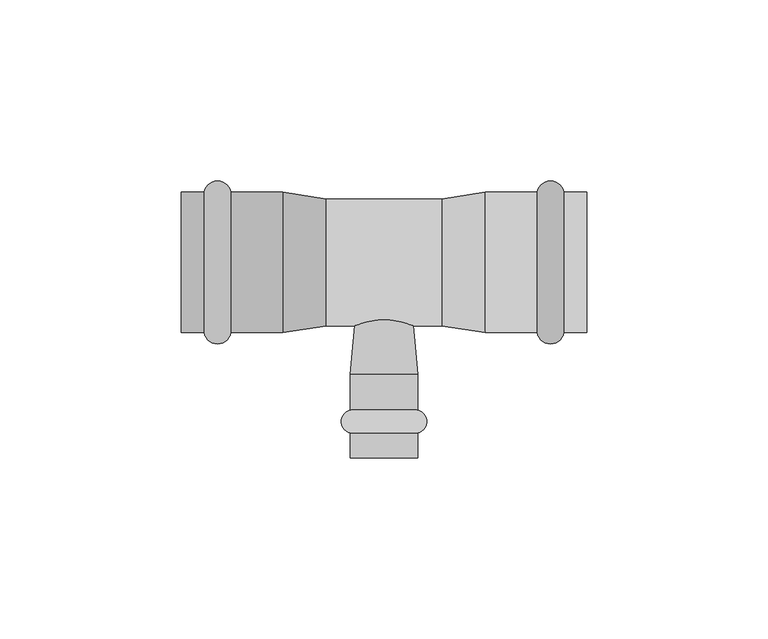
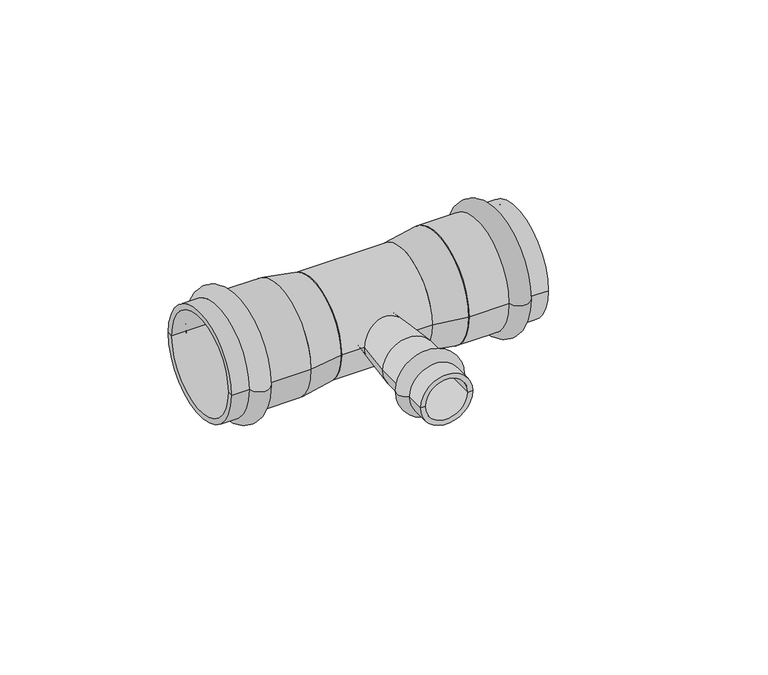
"""IFC4 building model written with IfcOpenShell, lengths in millimetres: pipe fitting geometry, VALTEC_VTi.931.I_Тройник_Ннержавеющая сталь : VTi.931.I."""

from ifc_helpers import new_model, si_unit, point, frame, origin, origin_2d, place, context, project, spatial, polyline, circle_curve, ellipse_curve, trimmed, segment, composite_curve, outline, extrude, source, transform, mapped, element, save
from ifc_brep_helpers import plane_surface, cylinder_surface, revolved_surface, advanced_brep


def pipe_fitting_ff04a165(model_context):
    return source(origin(), model_context, "Body", "SolidModel", [
        advanced_brep(
        [(9.25, -47.1122777, 0.0), (-9.25, -47.1122777, 0.0), (-9.25, -40.7877223, 0.0), (9.25, -40.7877223, 0.0), (9.25, -54.0, 0.0), (-9.25, -54.0, 0.0), (7.5, -54.0, 0.0), (-7.5, -54.0, 0.0), (7.5, -31.0, 0.0), (-7.5, -31.0, 0.0), (9.25, -31.0, 0.0), (-9.25, -31.0, 0.0)],
        [
            (0, 1, circle_curve(frame((0.0, -47.1122777, 0.0), z_axis=(0.0, 1.0, 0.0), x_axis=(-1.0, 0.0, 0.0)), 9.25)),
            (1, 2, circle_curve(frame((-8.5, -43.95, 0.0), z_axis=(0.0, 0.0, -1.0), x_axis=(0.0, 1.0, 0.0)), 3.25)),
            (2, 3, circle_curve(frame((0.0, -40.7877223, 0.0), z_axis=(0.0, -1.0, 0.0), x_axis=(-1.0, 0.0, 0.0)), 9.25)),
            (3, 0, circle_curve(frame((8.5, -43.95, 0.0), z_axis=(0.0, 0.0, -1.0), x_axis=(0.0, 1.0, 0.0)), 3.25)),
            (1, 0, circle_curve(frame((0.0, -47.1122777, 0.0), z_axis=(0.0, 1.0, 0.0), x_axis=(-1.0, 0.0, 0.0)), 9.25)),
            (3, 2, circle_curve(frame((0.0, -40.7877223, 0.0), z_axis=(0.0, -1.0, 0.0), x_axis=(-1.0, 0.0, 0.0)), 9.25)),
            (4, 5, circle_curve(frame((0.0, -54.0, 0.0), z_axis=(0.0, 1.0, 0.0), x_axis=(-1.0, 0.0, 0.0)), 9.25)),
            (5, 1),
            (0, 4),
            (5, 4, circle_curve(frame((0.0, -54.0, 0.0), z_axis=(0.0, 1.0, 0.0), x_axis=(-1.0, 0.0, 0.0)), 9.25)),
            (6, 7, circle_curve(frame((0.0, -54.0, 0.0), z_axis=(0.0, 1.0, 0.0), x_axis=(-1.0, 0.0, 0.0)), 7.5)),
            (7, 5),
            (4, 6),
            (7, 6, circle_curve(frame((0.0, -54.0, 0.0), z_axis=(0.0, 1.0, 0.0), x_axis=(-1.0, 0.0, 0.0)), 7.5)),
            (8, 9, circle_curve(frame((0.0, -31.0, 0.0), z_axis=(0.0, 1.0, 0.0), x_axis=(-1.0, 0.0, 0.0)), 7.5)),
            (9, 7),
            (6, 8),
            (9, 8, circle_curve(frame((0.0, -31.0, 0.0), z_axis=(0.0, 1.0, 0.0), x_axis=(-1.0, 0.0, 0.0)), 7.5)),
            (10, 11, circle_curve(frame((0.0, -31.0, 0.0), z_axis=(0.0, 1.0, 0.0), x_axis=(-1.0, 0.0, 0.0)), 9.25)),
            (11, 9),
            (8, 10),
            (11, 10, circle_curve(frame((0.0, -31.0, 0.0), z_axis=(0.0, 1.0, 0.0), x_axis=(-1.0, 0.0, 0.0)), 9.25)),
            (2, 11),
            (10, 3),
        ],
        [
            revolved_surface(trimmed(ellipse_curve(frame((-8.5, -43.95, 0.0), z_axis=(0.0, 0.0, 1.0), x_axis=(0.0, 1.0, 0.0)), 3.25, 3.25), [point((-9.25, -40.7877223, 0.0))], [point((-9.25, -47.1122777, 0.0))], True, "CARTESIAN"), (0.0, -57.5364426, 0.0), (0.0, -1.0, 0.0)),
            cylinder_surface(frame((0.0, -57.5364426, 0.0), z_axis=(0.0, -1.0, 0.0), x_axis=(-1.0, 0.0, 0.0)), 9.25),
            plane_surface(frame((0.0, -54.0, 0.0), z_axis=(0.0, -1.0, 0.0), x_axis=(-1.0, 0.0, 0.0))),
            revolved_surface(polyline([(-7.5, -54.0, 0.0), (-7.5, -31.0, 0.0)]), (0.0, -57.5364426, 0.0), (0.0, -1.0, 0.0)),
            plane_surface(frame((0.0, -31.0, 0.0), z_axis=(0.0, 1.0, 0.0), x_axis=(-1.0, 0.0, 0.0))),
        ],
        [
            (0, [[1, 2, 3, 4]]),
            (0, [[5, -4, 6, -2]]),
            (1, [[7, 8, -1, 9]]),
            (1, [[10, -9, -5, -8]]),
            (2, [[11, 12, -7, 13]]),
            (2, [[14, -13, -10, -12]]),
            (3, [[15, 16, -11, 17]]),
            (3, [[18, -17, -14, -16]]),
            (4, [[19, 20, -15, 21]]),
            (4, [[22, -21, -18, -20]]),
            (1, [[-3, 23, -19, 24]]),
            (1, [[-6, -24, -22, -23]]),
        ],
    ),
        advanced_brep(
        [(49.6432371, 19.4, 0.0), (49.6432371, -19.4, 0.0), (42.2567629, -19.4, 0.0), (42.2567629, 19.4, 0.0), (56.0, 19.4, 0.0), (56.0, -19.4, 0.0), (56.0, 17.5, 0.0), (56.0, -17.5, 0.0), (28.0, 17.5, 0.0), (28.0, -17.5, 0.0), (28.0, 19.4, 0.0), (28.0, -19.4, 0.0)],
        [
            (0, 1, circle_curve(frame((49.6432371, 0.0, 0.0), z_axis=(-1.0, 0.0, 0.0), x_axis=(0.0, -1.0, 0.0)), 19.4)),
            (1, 2, circle_curve(frame((45.95, -18.75, 0.0), z_axis=(0.0, 0.0, -1.0), x_axis=(-1.0, 0.0, 0.0)), 3.75)),
            (2, 3, circle_curve(frame((42.2567629, 0.0, 0.0), z_axis=(1.0, 0.0, 0.0), x_axis=(0.0, -1.0, 0.0)), 19.4)),
            (3, 0, circle_curve(frame((45.95, 18.75, 0.0), z_axis=(0.0, 0.0, -1.0), x_axis=(-1.0, 0.0, 0.0)), 3.75)),
            (1, 0, circle_curve(frame((49.6432371, 0.0, 0.0), z_axis=(-1.0, 0.0, 0.0), x_axis=(0.0, -1.0, 0.0)), 19.4)),
            (3, 2, circle_curve(frame((42.2567629, 0.0, 0.0), z_axis=(1.0, 0.0, 0.0), x_axis=(0.0, -1.0, 0.0)), 19.4)),
            (4, 5, circle_curve(frame((56.0, 0.0, 0.0), z_axis=(-1.0, 0.0, 0.0), x_axis=(0.0, -1.0, 0.0)), 19.4)),
            (5, 1),
            (0, 4),
            (5, 4, circle_curve(frame((56.0, 0.0, 0.0), z_axis=(-1.0, 0.0, 0.0), x_axis=(0.0, -1.0, 0.0)), 19.4)),
            (6, 7, circle_curve(frame((56.0, 0.0, 0.0), z_axis=(-1.0, 0.0, 0.0), x_axis=(0.0, -1.0, 0.0)), 17.5)),
            (7, 5),
            (4, 6),
            (7, 6, circle_curve(frame((56.0, 0.0, 0.0), z_axis=(-1.0, 0.0, 0.0), x_axis=(0.0, -1.0, 0.0)), 17.5)),
            (8, 9, circle_curve(frame((28.0, 0.0, 0.0), z_axis=(-1.0, 0.0, 0.0), x_axis=(0.0, -1.0, 0.0)), 17.5)),
            (9, 7),
            (6, 8),
            (9, 8, circle_curve(frame((28.0, 0.0, 0.0), z_axis=(-1.0, 0.0, 0.0), x_axis=(0.0, -1.0, 0.0)), 17.5)),
            (10, 11, circle_curve(frame((28.0, 0.0, 0.0), z_axis=(-1.0, 0.0, 0.0), x_axis=(0.0, -1.0, 0.0)), 19.4)),
            (11, 9),
            (8, 10),
            (11, 10, circle_curve(frame((28.0, 0.0, 0.0), z_axis=(-1.0, 0.0, 0.0), x_axis=(0.0, -1.0, 0.0)), 19.4)),
            (2, 11),
            (10, 3),
        ],
        [
            revolved_surface(trimmed(ellipse_curve(frame((45.95, -18.75, 0.0), z_axis=(0.0, 0.0, 1.0), x_axis=(-1.0, 0.0, 0.0)), 3.75, 3.75), [point((42.2567629, -19.4, 0.0))], [point((49.6432371, -19.4, 0.0))], True, "CARTESIAN"), (59.5364426, 0.0, 0.0), (1.0, 0.0, 0.0)),
            cylinder_surface(frame((59.5364426, 0.0, 0.0), z_axis=(1.0, 0.0, 0.0), x_axis=(0.0, -1.0, 0.0)), 19.4),
            plane_surface(frame((56.0, 0.0, 0.0), z_axis=(1.0, 0.0, 0.0), x_axis=(0.0, -1.0, 0.0))),
            revolved_surface(polyline([(56.0, -17.5, 0.0), (28.0, -17.5, 0.0)]), (59.5364426, 0.0, 0.0), (1.0, 0.0, 0.0)),
            plane_surface(frame((28.0, 0.0, 0.0), z_axis=(-1.0, 0.0, 0.0), x_axis=(0.0, -1.0, 0.0))),
        ],
        [
            (0, [[1, 2, 3, 4]]),
            (0, [[5, -4, 6, -2]]),
            (1, [[7, 8, -1, 9]]),
            (1, [[10, -9, -5, -8]]),
            (2, [[11, 12, -7, 13]]),
            (2, [[14, -13, -10, -12]]),
            (3, [[15, 16, -11, 17]]),
            (3, [[18, -17, -14, -16]]),
            (4, [[19, 20, -15, 21]]),
            (4, [[22, -21, -18, -20]]),
            (1, [[-3, 23, -19, 24]]),
            (1, [[-6, -24, -22, -23]]),
        ],
    ),
        advanced_brep(
        [(-49.6432371, -19.4, 0.0), (-49.6432371, 19.4, 0.0), (-42.2567629, 19.4, 0.0), (-42.2567629, -19.4, 0.0), (-56.0, -19.4, 0.0), (-56.0, 19.4, 0.0), (-56.0, -17.5, 0.0), (-56.0, 17.5, 0.0), (-28.0, -17.5, 0.0), (-28.0, 17.5, 0.0), (-28.0, -19.4, 0.0), (-28.0, 19.4, 0.0)],
        [
            (0, 1, circle_curve(frame((-49.6432371, 0.0, 0.0), z_axis=(1.0, 0.0, 0.0), x_axis=(0.0, 1.0, 0.0)), 19.4)),
            (1, 2, circle_curve(frame((-45.95, 18.75, 0.0), z_axis=(0.0, 0.0, -1.0), x_axis=(1.0, 0.0, 0.0)), 3.75)),
            (2, 3, circle_curve(frame((-42.2567629, 0.0, 0.0), z_axis=(-1.0, 0.0, 0.0), x_axis=(0.0, 1.0, 0.0)), 19.4)),
            (3, 0, circle_curve(frame((-45.95, -18.75, 0.0), z_axis=(0.0, 0.0, -1.0), x_axis=(1.0, 0.0, 0.0)), 3.75)),
            (1, 0, circle_curve(frame((-49.6432371, 0.0, 0.0), z_axis=(1.0, 0.0, 0.0), x_axis=(0.0, 1.0, 0.0)), 19.4)),
            (3, 2, circle_curve(frame((-42.2567629, 0.0, 0.0), z_axis=(-1.0, 0.0, 0.0), x_axis=(0.0, 1.0, 0.0)), 19.4)),
            (4, 5, circle_curve(frame((-56.0, 0.0, 0.0), z_axis=(1.0, 0.0, 0.0), x_axis=(0.0, 1.0, 0.0)), 19.4)),
            (5, 1),
            (0, 4),
            (5, 4, circle_curve(frame((-56.0, 0.0, 0.0), z_axis=(1.0, 0.0, 0.0), x_axis=(0.0, 1.0, 0.0)), 19.4)),
            (6, 7, circle_curve(frame((-56.0, 0.0, 0.0), z_axis=(1.0, 0.0, 0.0), x_axis=(0.0, 1.0, 0.0)), 17.5)),
            (7, 5),
            (4, 6),
            (7, 6, circle_curve(frame((-56.0, 0.0, 0.0), z_axis=(1.0, 0.0, 0.0), x_axis=(0.0, 1.0, 0.0)), 17.5)),
            (8, 9, circle_curve(frame((-28.0, 0.0, 0.0), z_axis=(1.0, 0.0, 0.0), x_axis=(0.0, 1.0, 0.0)), 17.5)),
            (9, 7),
            (6, 8),
            (9, 8, circle_curve(frame((-28.0, 0.0, 0.0), z_axis=(1.0, 0.0, 0.0), x_axis=(0.0, 1.0, 0.0)), 17.5)),
            (10, 11, circle_curve(frame((-28.0, 0.0, 0.0), z_axis=(1.0, 0.0, 0.0), x_axis=(0.0, 1.0, 0.0)), 19.4)),
            (11, 9),
            (8, 10),
            (11, 10, circle_curve(frame((-28.0, 0.0, 0.0), z_axis=(1.0, 0.0, 0.0), x_axis=(0.0, 1.0, 0.0)), 19.4)),
            (2, 11),
            (10, 3),
        ],
        [
            revolved_surface(trimmed(ellipse_curve(frame((-45.95, 18.75, 0.0), z_axis=(0.0, 0.0, 1.0), x_axis=(1.0, 0.0, 0.0)), 3.75, 3.75), [point((-42.2567629, 19.4, 0.0))], [point((-49.6432371, 19.4, 0.0))], True, "CARTESIAN"), (-59.5364426, 0.0, 0.0), (-1.0, 0.0, 0.0)),
            cylinder_surface(frame((-59.5364426, 0.0, 0.0), z_axis=(-1.0, 0.0, 0.0), x_axis=(0.0, 1.0, 0.0)), 19.4),
            plane_surface(frame((-56.0, 0.0, 0.0), z_axis=(-1.0, 0.0, 0.0), x_axis=(0.0, 1.0, 0.0))),
            revolved_surface(polyline([(-56.0, 17.5, 0.0), (-28.0, 17.5, 0.0)]), (-59.5364426, 0.0, 0.0), (-1.0, 0.0, 0.0)),
            plane_surface(frame((-28.0, 0.0, 0.0), z_axis=(1.0, 0.0, 0.0), x_axis=(0.0, 1.0, 0.0))),
        ],
        [
            (0, [[1, 2, 3, 4]]),
            (0, [[5, -4, 6, -2]]),
            (1, [[7, 8, -1, 9]]),
            (1, [[10, -9, -5, -8]]),
            (2, [[11, 12, -7, 13]]),
            (2, [[14, -13, -10, -12]]),
            (3, [[15, 16, -11, 17]]),
            (3, [[18, -17, -14, -16]]),
            (4, [[19, 20, -15, 21]]),
            (4, [[22, -21, -18, -20]]),
            (1, [[-3, 23, -19, 24]]),
            (1, [[-6, -24, -22, -23]]),
        ],
    ),
        extrude(outline(composite_curve([segment(trimmed(circle_curve(origin_2d(), 17.5), [point((-17.5, 0.0))], [point((17.5, 0.0))], False, "CARTESIAN"), True, "CONTINUOUS"), segment(trimmed(circle_curve(origin_2d(), 17.5), [point((17.5, 0.0))], [point((-17.5, 0.0))], False, "CARTESIAN"), True, "CONTINUOUS")], self_intersect=False)), frame((-16.0, 0.0, 0.0), z_axis=(1.0, 0.0, 0.0), x_axis=(0.0, 1.0, 0.0)), (0.0, 0.0, 1.0), 32.0),
        advanced_brep(
        [(-9.25, -31.0, 0.0), (9.25, -31.0, 0.0), (-7.5, -11.3209826, 0.0), (7.5, -11.3209826, 0.0)],
        [
            (0, 1, circle_curve(frame((0.0, -31.0, 0.0), z_axis=(0.0, -1.0, 0.0), x_axis=(-1.0, 0.0, 0.0)), 9.25)),
            (1, 0, circle_curve(frame((0.0, -31.0, 0.0), z_axis=(0.0, -1.0, 0.0), x_axis=(1.0, 0.0, 0.0)), 9.25)),
            (2, 3, circle_curve(frame((0.0, -11.3209826, 0.0), z_axis=(0.0, 1.0, 0.0), x_axis=(1.0, 0.0, 0.0)), 7.5)),
            (3, 2, circle_curve(frame((0.0, -11.3209826, 0.0), z_axis=(0.0, 1.0, 0.0), x_axis=(-1.0, 0.0, 0.0)), 7.5)),
            (3, 1),
            (0, 2),
        ],
        [
            plane_surface(frame((0.0, -31.0, 0.0), z_axis=(0.0, -1.0, 0.0), x_axis=(0.0, 0.0, 1.0))),
            plane_surface(frame((0.0, -11.3209826, 0.0), z_axis=(0.0, 1.0, 0.0), x_axis=(0.0, 0.0, 1.0))),
            revolved_surface(polyline([(7.5, -11.320982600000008, 0.0), (9.25, -31.0, 0.0)]), (0.0, 73.0176634, 0.0), (0.0, -1.0, 0.0)),
            revolved_surface(polyline([(-7.5, -11.320982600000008, 0.0), (-9.25, -31.0, 0.0)]), (0.0, 73.0176634, 0.0), (0.0, -1.0, 0.0)),
        ],
        [
            (0, [[1, 2]]),
            (1, [[3, 4]]),
            (2, [[-4, 5, -1, 6]]),
            (3, [[-3, -6, -2, -5]]),
        ],
    ),
        extrude(outline(composite_curve([segment(trimmed(circle_curve(origin_2d(), 7.5), [point((0.0, -7.5))], [point((0.0, 7.5))], False, "CARTESIAN"), True, "CONTINUOUS"), segment(trimmed(circle_curve(origin_2d(), 7.5), [point((0.0, 7.5))], [point((0.0, -7.5))], False, "CARTESIAN"), True, "CONTINUOUS")], self_intersect=False)), frame((0.0, -11.3209826, 0.0), z_axis=(0.0, 1.0, 0.0), x_axis=(0.0, 0.0, 1.0)), (0.0, 0.0, 1.0), 11.3209826),
        advanced_brep(
        [(28.0, -19.4, 0.0), (28.0, 19.4, 0.0), (16.0, -17.5, 0.0), (16.0, 17.5, 0.0)],
        [
            (0, 1, circle_curve(frame((28.0, 0.0, 0.0), z_axis=(1.0, 0.0, 0.0), x_axis=(0.0, -1.0, 0.0)), 19.4)),
            (1, 0, circle_curve(frame((28.0, 0.0, 0.0), z_axis=(1.0, 0.0, 0.0), x_axis=(0.0, 1.0, 0.0)), 19.4)),
            (2, 3, circle_curve(frame((16.0, 0.0, 0.0), z_axis=(-1.0, 0.0, 0.0), x_axis=(0.0, 1.0, 0.0)), 17.5)),
            (3, 2, circle_curve(frame((16.0, 0.0, 0.0), z_axis=(-1.0, 0.0, 0.0), x_axis=(0.0, -1.0, 0.0)), 17.5)),
            (3, 1),
            (0, 2),
        ],
        [
            plane_surface(frame((28.0, 0.0, 0.0), z_axis=(1.0, 0.0, 0.0), x_axis=(0.0, 0.0, 1.0))),
            plane_surface(frame((16.0, 0.0, 0.0), z_axis=(-1.0, 0.0, 0.0), x_axis=(0.0, 0.0, 1.0))),
            revolved_surface(polyline([(16.0, 17.50000000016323, 0.0), (28.0, 19.4, 0.0)]), (-94.5263158, 0.0, 0.0), (1.0, 0.0, 0.0)),
            revolved_surface(polyline([(16.0, -17.50000000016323, 0.0), (28.0, -19.4, 0.0)]), (-94.5263158, 0.0, 0.0), (1.0, 0.0, 0.0)),
        ],
        [
            (0, [[1, 2]]),
            (1, [[3, 4]]),
            (2, [[-4, 5, -1, 6]]),
            (3, [[-3, -6, -2, -5]]),
        ],
    ),
        advanced_brep(
        [(-28.0, -19.4, 0.0), (-28.0, 19.4, 0.0), (-16.0, -17.5, 0.0), (-16.0, 17.5, 0.0)],
        [
            (0, 1, circle_curve(frame((-28.0, 0.0, 0.0), z_axis=(-1.0, 0.0, 0.0), x_axis=(0.0, -1.0, 0.0)), 19.4)),
            (1, 0, circle_curve(frame((-28.0, 0.0, 0.0), z_axis=(-1.0, 0.0, 0.0), x_axis=(0.0, 1.0, 0.0)), 19.4)),
            (2, 3, circle_curve(frame((-16.0, 0.0, 0.0), z_axis=(1.0, 0.0, 0.0), x_axis=(0.0, 1.0, 0.0)), 17.5)),
            (3, 2, circle_curve(frame((-16.0, 0.0, 0.0), z_axis=(1.0, 0.0, 0.0), x_axis=(0.0, -1.0, 0.0)), 17.5)),
            (2, 0),
            (1, 3),
        ],
        [
            plane_surface(frame((-28.0, 0.0, 0.0), z_axis=(-1.0, 0.0, 0.0), x_axis=(0.0, 0.0, -1.0))),
            plane_surface(frame((-16.0, 0.0, 0.0), z_axis=(1.0, 0.0, 0.0), x_axis=(0.0, 0.0, -1.0))),
            revolved_surface(polyline([(-16.0, -17.50000000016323, 0.0), (-28.0, -19.4, 0.0)]), (94.5263158, 0.0, 0.0), (-1.0, 0.0, 0.0)),
            revolved_surface(polyline([(-16.0, 17.50000000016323, 0.0), (-28.0, 19.4, 0.0)]), (94.5263158, 0.0, 0.0), (-1.0, 0.0, 0.0)),
        ],
        [
            (0, [[1, 2]]),
            (1, [[3, 4]]),
            (2, [[-3, 5, -2, 6]]),
            (3, [[-4, -6, -1, -5]]),
        ],
    ),
    ])


if __name__ == "__main__":
    model = new_model("IFC4")
    model_context = context("Model", 3, world=origin())
    ifc_project = project(units=[si_unit("LENGTHUNIT", "METRE", prefix="MILLI")], contexts=[model_context])
    site = spatial("IfcSite", under=ifc_project)
    building = spatial("IfcBuilding", under=site)
    placement = place(None, origin())
    pipe_fitting_shape = pipe_fitting_ff04a165(model_context)
    element("IfcPipeFitting", 1, ObjectType="VALTEC_VTi.931.I_Тройник_Ннержавеющая сталь : VTi.931.I", at=placement, inside=building, context=model_context, shape_type="MappedRepresentation", body=[
        mapped(pipe_fitting_shape, transform((0.0, 0.0, 0.0), x_axis=(1.0, 0.0, 0.0), y_axis=(0.0, 1.0, 0.0), z_axis=(0.0, 0.0, 1.0))),
    ])
    save(model, "model.ifc")
